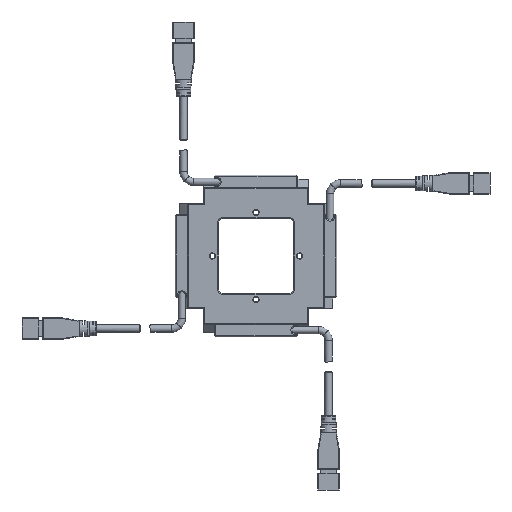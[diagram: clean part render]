
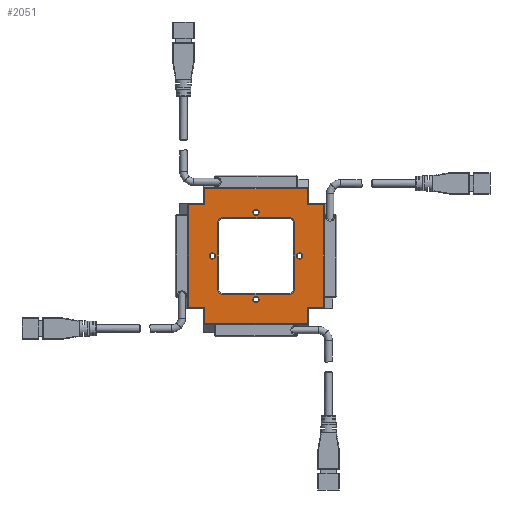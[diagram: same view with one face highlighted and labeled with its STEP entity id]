
A CAD part, left-side view. The second image highlights one B-rep face of the part: STEP entity #2051.
In plain terms, the highlighted planar face has unit normal (-1, 0, 0).
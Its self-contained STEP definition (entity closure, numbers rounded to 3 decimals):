
#2=CARTESIAN_POINT('',(0.,21.,0.));
#3=DIRECTION('',(1.,0.,0.));
#4=DIRECTION('',(0.,-1.,0.));
#5=AXIS2_PLACEMENT_3D('',#2,#3,#4);
#7=CARTESIAN_POINT('',(0.,21.,0.));
#8=DIRECTION('',(1.,0.,0.));
#9=DIRECTION('',(0.,1.,0.));
#10=AXIS2_PLACEMENT_3D('',#7,#8,#9);
#12=CARTESIAN_POINT('',(0.,0.,-21.));
#13=DIRECTION('',(1.,0.,0.));
#14=DIRECTION('',(0.,0.,1.));
#15=AXIS2_PLACEMENT_3D('',#12,#13,#14);
#17=CARTESIAN_POINT('',(0.,0.,-21.));
#18=DIRECTION('',(1.,0.,0.));
#19=DIRECTION('',(0.,0.,-1.));
#20=AXIS2_PLACEMENT_3D('',#17,#18,#19);
#22=CARTESIAN_POINT('',(0.,-21.,0.));
#23=DIRECTION('',(1.,0.,0.));
#24=DIRECTION('',(0.,1.,0.));
#25=AXIS2_PLACEMENT_3D('',#22,#23,#24);
#27=CARTESIAN_POINT('',(0.,-21.,0.));
#28=DIRECTION('',(1.,0.,0.));
#29=DIRECTION('',(0.,-1.,0.));
#30=AXIS2_PLACEMENT_3D('',#27,#28,#29);
#32=CARTESIAN_POINT('',(0.,0.,21.));
#33=DIRECTION('',(1.,0.,0.));
#34=DIRECTION('',(0.,0.,-1.));
#35=AXIS2_PLACEMENT_3D('',#32,#33,#34);
#37=CARTESIAN_POINT('',(0.,0.,21.));
#38=DIRECTION('',(1.,0.,0.));
#39=DIRECTION('',(0.,0.,1.));
#40=AXIS2_PLACEMENT_3D('',#37,#38,#39);
#42=CARTESIAN_POINT('',(0.,-16.,-16.));
#43=DIRECTION('',(1.,0.,0.));
#44=DIRECTION('',(0.,-1.,0.));
#45=AXIS2_PLACEMENT_3D('',#42,#43,#44);
#47=DIRECTION('',(0.,0.,-1.));
#48=VECTOR('',#47,32.);
#49=CARTESIAN_POINT('',(0.,-18.5,16.));
#50=LINE('',#49,#48);
#51=CARTESIAN_POINT('',(0.,-16.,16.));
#52=DIRECTION('',(1.,0.,0.));
#53=DIRECTION('',(0.,0.,1.));
#54=AXIS2_PLACEMENT_3D('',#51,#52,#53);
#56=DIRECTION('',(0.,-1.,0.));
#57=VECTOR('',#56,32.);
#58=CARTESIAN_POINT('',(0.,16.,18.5));
#59=LINE('',#58,#57);
#60=CARTESIAN_POINT('',(0.,16.,16.));
#61=DIRECTION('',(1.,0.,0.));
#62=DIRECTION('',(0.,1.,0.));
#63=AXIS2_PLACEMENT_3D('',#60,#61,#62);
#65=DIRECTION('',(0.,0.,1.));
#66=VECTOR('',#65,32.);
#67=CARTESIAN_POINT('',(0.,18.5,-16.));
#68=LINE('',#67,#66);
#69=CARTESIAN_POINT('',(0.,16.,-16.));
#70=DIRECTION('',(1.,0.,0.));
#71=DIRECTION('',(0.,0.,-1.));
#72=AXIS2_PLACEMENT_3D('',#69,#70,#71);
#74=DIRECTION('',(0.,1.,0.));
#75=VECTOR('',#74,32.);
#76=CARTESIAN_POINT('',(0.,-16.,-18.5));
#77=LINE('',#76,#75);
#78=DIRECTION('',(0.,1.,0.));
#79=VECTOR('',#78,7.75);
#80=CARTESIAN_POINT('',(0.,-32.5,24.75));
#81=LINE('',#80,#79);
#82=DIRECTION('',(0.,0.,1.));
#83=VECTOR('',#82,49.5);
#84=CARTESIAN_POINT('',(0.,-32.5,-24.75));
#85=LINE('',#84,#83);
#86=DIRECTION('',(0.,-1.,0.));
#87=VECTOR('',#86,7.75);
#88=CARTESIAN_POINT('',(0.,-24.75,-24.75));
#89=LINE('',#88,#87);
#90=DIRECTION('',(0.,0.,1.));
#91=VECTOR('',#90,7.75);
#92=CARTESIAN_POINT('',(0.,-24.75,-32.5));
#93=LINE('',#92,#91);
#94=DIRECTION('',(0.,-1.,0.));
#95=VECTOR('',#94,49.5);
#96=CARTESIAN_POINT('',(0.,24.75,-32.5));
#97=LINE('',#96,#95);
#98=DIRECTION('',(0.,0.,-1.));
#99=VECTOR('',#98,7.75);
#100=CARTESIAN_POINT('',(0.,24.75,-24.75));
#101=LINE('',#100,#99);
#102=DIRECTION('',(0.,-1.,0.));
#103=VECTOR('',#102,7.75);
#104=CARTESIAN_POINT('',(0.,32.5,-24.75));
#105=LINE('',#104,#103);
#106=DIRECTION('',(0.,0.,-1.));
#107=VECTOR('',#106,49.5);
#108=CARTESIAN_POINT('',(0.,32.5,24.75));
#109=LINE('',#108,#107);
#110=DIRECTION('',(0.,1.,0.));
#111=VECTOR('',#110,7.75);
#112=CARTESIAN_POINT('',(0.,24.75,24.75));
#113=LINE('',#112,#111);
#114=DIRECTION('',(0.,0.,-1.));
#115=VECTOR('',#114,7.75);
#116=CARTESIAN_POINT('',(0.,24.75,32.5));
#117=LINE('',#116,#115);
#118=DIRECTION('',(0.,1.,0.));
#119=VECTOR('',#118,49.5);
#120=CARTESIAN_POINT('',(0.,-24.75,32.5));
#121=LINE('',#120,#119);
#122=DIRECTION('',(0.,0.,1.));
#123=VECTOR('',#122,7.75);
#124=CARTESIAN_POINT('',(0.,-24.75,24.75));
#125=LINE('',#124,#123);
#1522=CARTESIAN_POINT('',(0.,19.75,0.));
#1523=CARTESIAN_POINT('',(0.,22.25,0.));
#1524=VERTEX_POINT('',#1522);
#1525=VERTEX_POINT('',#1523);
#1530=CARTESIAN_POINT('',(0.,0.,-19.75));
#1531=CARTESIAN_POINT('',(0.,0.,-22.25));
#1532=VERTEX_POINT('',#1530);
#1533=VERTEX_POINT('',#1531);
#1538=CARTESIAN_POINT('',(0.,-19.75,0.));
#1539=CARTESIAN_POINT('',(0.,-22.25,0.));
#1540=VERTEX_POINT('',#1538);
#1541=VERTEX_POINT('',#1539);
#1546=CARTESIAN_POINT('',(0.,0.,19.75));
#1547=CARTESIAN_POINT('',(0.,0.,22.25));
#1548=VERTEX_POINT('',#1546);
#1549=VERTEX_POINT('',#1547);
#1818=CARTESIAN_POINT('',(0.,-18.5,-16.));
#1819=CARTESIAN_POINT('',(0.,-16.,-18.5));
#1820=VERTEX_POINT('',#1818);
#1821=VERTEX_POINT('',#1819);
#1826=CARTESIAN_POINT('',(0.,16.,
-18.5));
#1827=VERTEX_POINT('',#1826);
#1830=CARTESIAN_POINT('',(0.,18.5,-16.));
#1831=VERTEX_POINT('',#1830);
#1834=CARTESIAN_POINT('',(0.,18.5,16.));
#1835=VERTEX_POINT('',#1834);
#1838=CARTESIAN_POINT('',(0.,16.,18.5));
#1839=VERTEX_POINT('',#1838);
#1842=CARTESIAN_POINT('',(0.,-16.,
18.5));
#1843=VERTEX_POINT('',#1842);
#1846=CARTESIAN_POINT('',(0.,-18.5,16.));
#1847=VERTEX_POINT('',#1846);
#1854=CARTESIAN_POINT('',(0.,-32.5,24.75));
#1855=CARTESIAN_POINT('',(0.,-24.75,24.75));
#1856=VERTEX_POINT('',#1854);
#1857=VERTEX_POINT('',#1855);
#1860=CARTESIAN_POINT('',(0.,-24.75,32.5));
#1861=VERTEX_POINT('',#1860);
#1864=CARTESIAN_POINT('',(0.,24.75,32.5));
#1865=VERTEX_POINT('',#1864);
#1868=CARTESIAN_POINT('',(0.,24.75,24.75));
#1869=VERTEX_POINT('',#1868);
#1872=CARTESIAN_POINT('',(0.,32.5,24.75));
#1873=VERTEX_POINT('',#1872);
#1874=CARTESIAN_POINT('',(0.,32.5,-24.75));
#1875=VERTEX_POINT('',#1874);
#1880=CARTESIAN_POINT('',(0.,24.75,-24.75));
#1881=VERTEX_POINT('',#1880);
#1884=CARTESIAN_POINT('',(0.,24.75,-32.5));
#1885=VERTEX_POINT('',#1884);
#1888=CARTESIAN_POINT('',(0.,-24.75,-32.5));
#1889=VERTEX_POINT('',#1888);
#1892=CARTESIAN_POINT('',(0.,-24.75,-24.75));
#1893=VERTEX_POINT('',#1892);
#1896=CARTESIAN_POINT('',(0.,-32.5,-24.75));
#1897=VERTEX_POINT('',#1896);
#1978=CARTESIAN_POINT('',(0.,0.,0.));
#1979=DIRECTION('',(1.,0.,0.));
#1980=DIRECTION('',(0.,-1.,0.));
#1981=AXIS2_PLACEMENT_3D('',#1978,#1979,#1980);
#1982=PLANE('',#1981);
#1984=ORIENTED_EDGE('',*,*,#1983,.F.);
#1986=ORIENTED_EDGE('',*,*,#1985,.F.);
#1988=ORIENTED_EDGE('',*,*,#1987,.F.);
#1990=ORIENTED_EDGE('',*,*,#1989,.F.);
#1992=ORIENTED_EDGE('',*,*,#1991,.F.);
#1994=ORIENTED_EDGE('',*,*,#1993,.F.);
#1996=ORIENTED_EDGE('',*,*,#1995,.F.);
#1998=ORIENTED_EDGE('',*,*,#1997,.F.);
#2000=ORIENTED_EDGE('',*,*,#1999,.F.);
#2002=ORIENTED_EDGE('',*,*,#2001,.F.);
#2004=ORIENTED_EDGE('',*,*,#2003,.F.);
#2006=ORIENTED_EDGE('',*,*,#2005,.F.);
#2007=EDGE_LOOP('',(#1984,#1986,#1988,#1990,#1992,#1994,#1996,#1998,#2000,#2002,
#2004,#2006));
#2008=FACE_OUTER_BOUND('',#2007,.F.);
#2010=ORIENTED_EDGE('',*,*,#2009,.F.);
#2012=ORIENTED_EDGE('',*,*,#2011,.F.);
#2013=EDGE_LOOP('',(#2010,#2012));
#2014=FACE_BOUND('',#2013,.F.);
#2016=ORIENTED_EDGE('',*,*,#2015,.F.);
#2018=ORIENTED_EDGE('',*,*,#2017,.F.);
#2019=EDGE_LOOP('',(#2016,#2018));
#2020=FACE_BOUND('',#2019,.F.);
#2022=ORIENTED_EDGE('',*,*,#2021,.F.);
#2024=ORIENTED_EDGE('',*,*,#2023,.F.);
#2025=EDGE_LOOP('',(#2022,#2024));
#2026=FACE_BOUND('',#2025,.F.);
#2028=ORIENTED_EDGE('',*,*,#2027,.F.);
#2030=ORIENTED_EDGE('',*,*,#2029,.F.);
#2031=EDGE_LOOP('',(#2028,#2030));
#2032=FACE_BOUND('',#2031,.F.);
#2034=ORIENTED_EDGE('',*,*,#2033,.F.);
#2036=ORIENTED_EDGE('',*,*,#2035,.F.);
#2038=ORIENTED_EDGE('',*,*,#2037,.F.);
#2040=ORIENTED_EDGE('',*,*,#2039,.F.);
#2042=ORIENTED_EDGE('',*,*,#2041,.F.);
#2044=ORIENTED_EDGE('',*,*,#2043,.F.);
#2046=ORIENTED_EDGE('',*,*,#2045,.F.);
#2048=ORIENTED_EDGE('',*,*,#2047,.F.);
#2049=EDGE_LOOP('',(#2034,#2036,#2038,#2040,#2042,#2044,#2046,#2048));
#2050=FACE_BOUND('',#2049,.F.);
#2051=ADVANCED_FACE('',(#2008,#2014,#2020,#2026,#2032,#2050),#1982,.F.);
#6=CIRCLE('',#5,1.25);
#11=CIRCLE('',#10,1.25);
#16=CIRCLE('',#15,1.25);
#21=CIRCLE('',#20,1.25);
#26=CIRCLE('',#25,1.25);
#31=CIRCLE('',#30,1.25);
#36=CIRCLE('',#35,1.25);
#41=CIRCLE('',#40,1.25);
#46=CIRCLE('',#45,2.5);
#55=CIRCLE('',#54,2.5);
#64=CIRCLE('',#63,2.5);
#73=CIRCLE('',#72,2.5);
#1983=EDGE_CURVE('',#1856,#1857,#81,.T.);
#1985=EDGE_CURVE('',#1897,#1856,#85,.T.);
#1987=EDGE_CURVE('',#1893,#1897,#89,.T.);
#1989=EDGE_CURVE('',#1889,#1893,#93,.T.);
#1991=EDGE_CURVE('',#1885,#1889,#97,.T.);
#1993=EDGE_CURVE('',#1881,#1885,#101,.T.);
#1995=EDGE_CURVE('',#1875,#1881,#105,.T.);
#1997=EDGE_CURVE('',#1873,#1875,#109,.T.);
#1999=EDGE_CURVE('',#1869,#1873,#113,.T.);
#2001=EDGE_CURVE('',#1865,#1869,#117,.T.);
#2003=EDGE_CURVE('',#1861,#1865,#121,.T.);
#2005=EDGE_CURVE('',#1857,#1861,#125,.T.);
#2009=EDGE_CURVE('',#1524,#1525,#6,.T.);
#2011=EDGE_CURVE('',#1525,#1524,#11,.T.);
#2015=EDGE_CURVE('',#1532,#1533,#16,.T.);
#2017=EDGE_CURVE('',#1533,#1532,#21,.T.);
#2021=EDGE_CURVE('',#1540,#1541,#26,.T.);
#2023=EDGE_CURVE('',#1541,#1540,#31,.T.);
#2027=EDGE_CURVE('',#1548,#1549,#36,.T.);
#2029=EDGE_CURVE('',#1549,#1548,#41,.T.);
#2033=EDGE_CURVE('',#1820,#1821,#46,.T.);
#2035=EDGE_CURVE('',#1847,#1820,#50,.T.);
#2037=EDGE_CURVE('',#1843,#1847,#55,.T.);
#2039=EDGE_CURVE('',#1839,#1843,#59,.T.);
#2041=EDGE_CURVE('',#1835,#1839,#64,.T.);
#2043=EDGE_CURVE('',#1831,#1835,#68,.T.);
#2045=EDGE_CURVE('',#1827,#1831,#73,.T.);
#2047=EDGE_CURVE('',#1821,#1827,#77,.T.);
